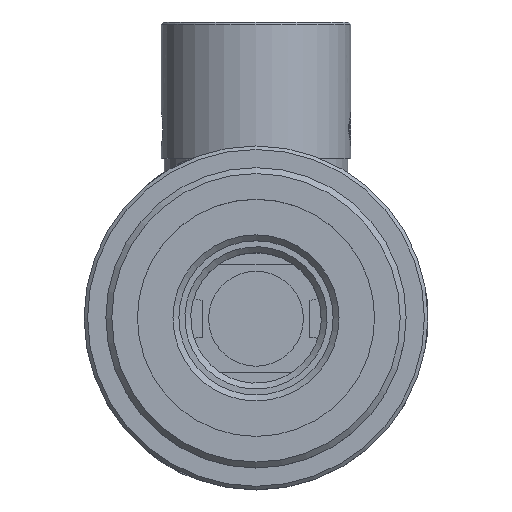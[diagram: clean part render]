
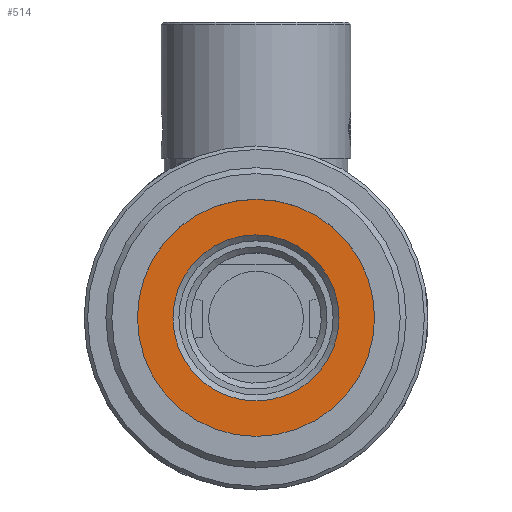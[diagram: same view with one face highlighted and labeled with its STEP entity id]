
A CAD part, top view. The second image highlights one B-rep face of the part: STEP entity #514.
In plain terms, the highlighted planar face has unit normal (0, 0, 1).
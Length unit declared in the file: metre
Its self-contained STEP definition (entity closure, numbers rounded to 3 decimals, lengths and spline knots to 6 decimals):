
#514=ADVANCED_FACE('NONE',(#1348,#1349),#1350,.F.);
#1348=FACE_BOUND('',#2645,.T.);
#1349=FACE_OUTER_BOUND('',#2646,.T.);
#1350=PLANE('',#2647);
#2645=EDGE_LOOP('',(#4219));
#2646=EDGE_LOOP('',(#4220));
#2647=AXIS2_PLACEMENT_3D('',#4221,#4222,#4223);
#4219=ORIENTED_EDGE('',*,*,#6735,.T.);
#4220=ORIENTED_EDGE('',*,*,#6736,.F.);
#4221=CARTESIAN_POINT('',(-0.013422,-0.001395,0.02407));
#4222=DIRECTION('',(0.,0.0,-1.0));
#4223=DIRECTION('',(-1.0,0.0,0.));
#6735=EDGE_CURVE('NONE',#7918,#7918,#7919,.T.);
#6736=EDGE_CURVE('NONE',#7920,#7920,#7921,.T.);
#7918=VERTEX_POINT('',#9950);
#7919=CIRCLE('',#9951,0.007);
#7920=VERTEX_POINT('',#9952);
#7921=CIRCLE('',#9953,0.01);
#9950=CARTESIAN_POINT('',(-0.003422,-0.008395,0.02407));
#9951=AXIS2_PLACEMENT_3D('',#11901,#11902,#11903);
#9952=CARTESIAN_POINT('',(-0.003422,-0.011395,0.02407));
#9953=AXIS2_PLACEMENT_3D('',#11904,#11905,#11906);
#11901=CARTESIAN_POINT('',(-0.003422,-0.001395,0.02407));
#11902=DIRECTION('',(0.,0.0,-1.0));
#11903=DIRECTION('',(0.,-1.0,0.));
#11904=CARTESIAN_POINT('',(-0.003422,-0.001395,0.02407));
#11905=DIRECTION('',(0.,0.,-1.0));
#11906=DIRECTION('',(0.,-1.0,0.));
